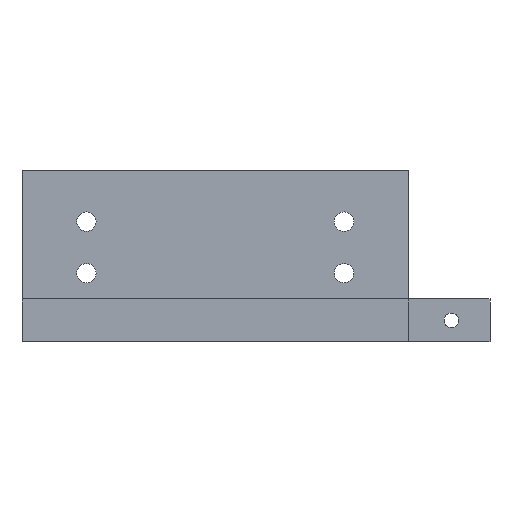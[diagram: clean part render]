
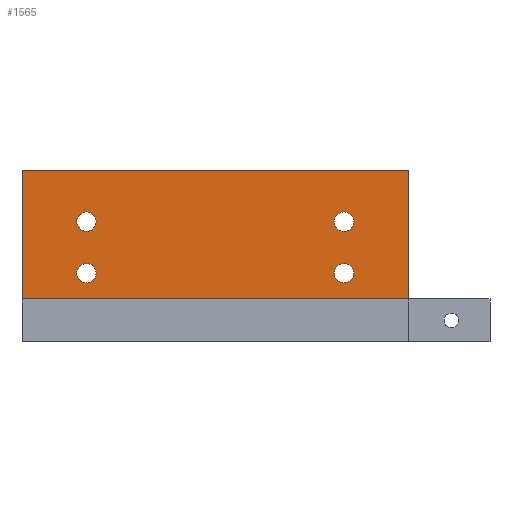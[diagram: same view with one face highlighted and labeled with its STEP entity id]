
A CAD part, front view. The second image highlights one B-rep face of the part: STEP entity #1565.
In plain terms, the highlighted planar face has unit normal (0, -1, 0).
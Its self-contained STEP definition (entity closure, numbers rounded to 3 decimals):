
#32 = PLANE('',#33);
#33 = AXIS2_PLACEMENT_3D('',#34,#35,#36);
#34 = CARTESIAN_POINT('',(0.,103.,10.));
#35 = DIRECTION('',(1.,0.,0.));
#36 = DIRECTION('',(0.,0.,-1.));
#141 = VERTEX_POINT('',#142);
#142 = CARTESIAN_POINT('',(0.,12.,40.));
#156 = PLANE('',#157);
#157 = AXIS2_PLACEMENT_3D('',#158,#159,#160);
#158 = CARTESIAN_POINT('',(0.,22.,40.));
#159 = DIRECTION('',(0.,0.,-1.));
#160 = DIRECTION('',(1.,0.,0.));
#168 = EDGE_CURVE('',#141,#169,#171,.T.);
#169 = VERTEX_POINT('',#170);
#170 = CARTESIAN_POINT('',(0.,12.,10.));
#171 = SURFACE_CURVE('',#172,(#176,#183),.PCURVE_S1.);
#172 = LINE('',#173,#174);
#173 = CARTESIAN_POINT('',(0.,12.,40.));
#174 = VECTOR('',#175,1.);
#175 = DIRECTION('',(0.,0.,-1.));
#176 = PCURVE('',#32,#177);
#177 = DEFINITIONAL_REPRESENTATION('',(#178),#182);
#178 = LINE('',#179,#180);
#179 = CARTESIAN_POINT('',(-30.,-91.));
#180 = VECTOR('',#181,1.);
#181 = DIRECTION('',(1.,0.));
#182 = ( GEOMETRIC_REPRESENTATION_CONTEXT(2) 
PARAMETRIC_REPRESENTATION_CONTEXT() REPRESENTATION_CONTEXT('2D SPACE',''
  ) );
#183 = PCURVE('',#184,#189);
#184 = PLANE('',#185);
#185 = AXIS2_PLACEMENT_3D('',#186,#187,#188);
#186 = CARTESIAN_POINT('',(0.,12.,40.));
#187 = DIRECTION('',(0.,-1.,0.));
#188 = DIRECTION('',(0.,0.,-1.));
#189 = DEFINITIONAL_REPRESENTATION('',(#190),#194);
#190 = LINE('',#191,#192);
#191 = CARTESIAN_POINT('',(0.,0.));
#192 = VECTOR('',#193,1.);
#193 = DIRECTION('',(1.,0.));
#194 = ( GEOMETRIC_REPRESENTATION_CONTEXT(2) 
PARAMETRIC_REPRESENTATION_CONTEXT() REPRESENTATION_CONTEXT('2D SPACE',''
  ) );
#212 = PLANE('',#213);
#213 = AXIS2_PLACEMENT_3D('',#214,#215,#216);
#214 = CARTESIAN_POINT('',(0.,103.,10.));
#215 = DIRECTION('',(0.,0.,-1.));
#216 = DIRECTION('',(1.,0.,0.));
#482 = PLANE('',#483);
#483 = AXIS2_PLACEMENT_3D('',#484,#485,#486);
#484 = CARTESIAN_POINT('',(90.,103.,10.));
#485 = DIRECTION('',(1.,0.,0.));
#486 = DIRECTION('',(0.,0.,-1.));
#1412 = CYLINDRICAL_SURFACE('',#1413,2.25);
#1413 = AXIS2_PLACEMENT_3D('',#1414,#1415,#1416);
#1414 = CARTESIAN_POINT('',(15.,23.,28.));
#1415 = DIRECTION('',(0.,-1.,0.));
#1416 = DIRECTION('',(0.,0.,-1.));
#1443 = CYLINDRICAL_SURFACE('',#1444,2.25);
#1444 = AXIS2_PLACEMENT_3D('',#1445,#1446,#1447);
#1445 = CARTESIAN_POINT('',(15.,23.,16.));
#1446 = DIRECTION('',(0.,-1.,0.));
#1447 = DIRECTION('',(0.,0.,-1.));
#1474 = CYLINDRICAL_SURFACE('',#1475,2.25);
#1475 = AXIS2_PLACEMENT_3D('',#1476,#1477,#1478);
#1476 = CARTESIAN_POINT('',(75.,23.,28.));
#1477 = DIRECTION('',(0.,-1.,0.));
#1478 = DIRECTION('',(0.,0.,-1.));
#1505 = CYLINDRICAL_SURFACE('',#1506,2.25);
#1506 = AXIS2_PLACEMENT_3D('',#1507,#1508,#1509);
#1507 = CARTESIAN_POINT('',(75.,23.,16.));
#1508 = DIRECTION('',(0.,-1.,0.));
#1509 = DIRECTION('',(0.,0.,-1.));
#1523 = VERTEX_POINT('',#1524);
#1524 = CARTESIAN_POINT('',(90.,12.,40.));
#1545 = EDGE_CURVE('',#141,#1523,#1546,.T.);
#1546 = SURFACE_CURVE('',#1547,(#1551,#1558),.PCURVE_S1.);
#1547 = LINE('',#1548,#1549);
#1548 = CARTESIAN_POINT('',(0.,12.,40.));
#1549 = VECTOR('',#1550,1.);
#1550 = DIRECTION('',(1.,0.,0.));
#1551 = PCURVE('',#156,#1552);
#1552 = DEFINITIONAL_REPRESENTATION('',(#1553),#1557);
#1553 = LINE('',#1554,#1555);
#1554 = CARTESIAN_POINT('',(0.,10.));
#1555 = VECTOR('',#1556,1.);
#1556 = DIRECTION('',(1.,0.));
#1557 = ( GEOMETRIC_REPRESENTATION_CONTEXT(2) 
PARAMETRIC_REPRESENTATION_CONTEXT() REPRESENTATION_CONTEXT('2D SPACE',''
  ) );
#1558 = PCURVE('',#184,#1559);
#1559 = DEFINITIONAL_REPRESENTATION('',(#1560),#1564);
#1560 = LINE('',#1561,#1562);
#1561 = CARTESIAN_POINT('',(0.,0.));
#1562 = VECTOR('',#1563,1.);
#1563 = DIRECTION('',(0.,1.));
#1564 = ( GEOMETRIC_REPRESENTATION_CONTEXT(2) 
PARAMETRIC_REPRESENTATION_CONTEXT() REPRESENTATION_CONTEXT('2D SPACE',''
  ) );
#1565 = ADVANCED_FACE('',(#1566,#1614,#1640,#1666,#1692),#184,.T.);
#1566 = FACE_BOUND('',#1567,.T.);
#1567 = EDGE_LOOP('',(#1568,#1569,#1570,#1593));
#1568 = ORIENTED_EDGE('',*,*,#1545,.F.);
#1569 = ORIENTED_EDGE('',*,*,#168,.T.);
#1570 = ORIENTED_EDGE('',*,*,#1571,.T.);
#1571 = EDGE_CURVE('',#169,#1572,#1574,.T.);
#1572 = VERTEX_POINT('',#1573);
#1573 = CARTESIAN_POINT('',(90.,12.,10.));
#1574 = SURFACE_CURVE('',#1575,(#1579,#1586),.PCURVE_S1.);
#1575 = LINE('',#1576,#1577);
#1576 = CARTESIAN_POINT('',(0.,12.,10.));
#1577 = VECTOR('',#1578,1.);
#1578 = DIRECTION('',(1.,0.,0.));
#1579 = PCURVE('',#184,#1580);
#1580 = DEFINITIONAL_REPRESENTATION('',(#1581),#1585);
#1581 = LINE('',#1582,#1583);
#1582 = CARTESIAN_POINT('',(30.,0.));
#1583 = VECTOR('',#1584,1.);
#1584 = DIRECTION('',(0.,1.));
#1585 = ( GEOMETRIC_REPRESENTATION_CONTEXT(2) 
PARAMETRIC_REPRESENTATION_CONTEXT() REPRESENTATION_CONTEXT('2D SPACE',''
  ) );
#1586 = PCURVE('',#212,#1587);
#1587 = DEFINITIONAL_REPRESENTATION('',(#1588),#1592);
#1588 = LINE('',#1589,#1590);
#1589 = CARTESIAN_POINT('',(0.,91.));
#1590 = VECTOR('',#1591,1.);
#1591 = DIRECTION('',(1.,0.));
#1592 = ( GEOMETRIC_REPRESENTATION_CONTEXT(2) 
PARAMETRIC_REPRESENTATION_CONTEXT() REPRESENTATION_CONTEXT('2D SPACE',''
  ) );
#1593 = ORIENTED_EDGE('',*,*,#1594,.F.);
#1594 = EDGE_CURVE('',#1523,#1572,#1595,.T.);
#1595 = SURFACE_CURVE('',#1596,(#1600,#1607),.PCURVE_S1.);
#1596 = LINE('',#1597,#1598);
#1597 = CARTESIAN_POINT('',(90.,12.,40.));
#1598 = VECTOR('',#1599,1.);
#1599 = DIRECTION('',(0.,0.,-1.));
#1600 = PCURVE('',#184,#1601);
#1601 = DEFINITIONAL_REPRESENTATION('',(#1602),#1606);
#1602 = LINE('',#1603,#1604);
#1603 = CARTESIAN_POINT('',(0.,90.));
#1604 = VECTOR('',#1605,1.);
#1605 = DIRECTION('',(1.,0.));
#1606 = ( GEOMETRIC_REPRESENTATION_CONTEXT(2) 
PARAMETRIC_REPRESENTATION_CONTEXT() REPRESENTATION_CONTEXT('2D SPACE',''
  ) );
#1607 = PCURVE('',#482,#1608);
#1608 = DEFINITIONAL_REPRESENTATION('',(#1609),#1613);
#1609 = LINE('',#1610,#1611);
#1610 = CARTESIAN_POINT('',(-30.,-91.));
#1611 = VECTOR('',#1612,1.);
#1612 = DIRECTION('',(1.,0.));
#1613 = ( GEOMETRIC_REPRESENTATION_CONTEXT(2) 
PARAMETRIC_REPRESENTATION_CONTEXT() REPRESENTATION_CONTEXT('2D SPACE',''
  ) );
#1614 = FACE_BOUND('',#1615,.T.);
#1615 = EDGE_LOOP('',(#1616));
#1616 = ORIENTED_EDGE('',*,*,#1617,.F.);
#1617 = EDGE_CURVE('',#1618,#1618,#1620,.T.);
#1618 = VERTEX_POINT('',#1619);
#1619 = CARTESIAN_POINT('',(15.,12.,25.75));
#1620 = SURFACE_CURVE('',#1621,(#1626,#1633),.PCURVE_S1.);
#1621 = CIRCLE('',#1622,2.25);
#1622 = AXIS2_PLACEMENT_3D('',#1623,#1624,#1625);
#1623 = CARTESIAN_POINT('',(15.,12.,28.));
#1624 = DIRECTION('',(0.,-1.,0.));
#1625 = DIRECTION('',(0.,0.,-1.));
#1626 = PCURVE('',#184,#1627);
#1627 = DEFINITIONAL_REPRESENTATION('',(#1628),#1632);
#1628 = CIRCLE('',#1629,2.25);
#1629 = AXIS2_PLACEMENT_2D('',#1630,#1631);
#1630 = CARTESIAN_POINT('',(12.,15.));
#1631 = DIRECTION('',(1.,0.));
#1632 = ( GEOMETRIC_REPRESENTATION_CONTEXT(2) 
PARAMETRIC_REPRESENTATION_CONTEXT() REPRESENTATION_CONTEXT('2D SPACE',''
  ) );
#1633 = PCURVE('',#1412,#1634);
#1634 = DEFINITIONAL_REPRESENTATION('',(#1635),#1639);
#1635 = LINE('',#1636,#1637);
#1636 = CARTESIAN_POINT('',(0.,11.));
#1637 = VECTOR('',#1638,1.);
#1638 = DIRECTION('',(1.,0.));
#1639 = ( GEOMETRIC_REPRESENTATION_CONTEXT(2) 
PARAMETRIC_REPRESENTATION_CONTEXT() REPRESENTATION_CONTEXT('2D SPACE',''
  ) );
#1640 = FACE_BOUND('',#1641,.T.);
#1641 = EDGE_LOOP('',(#1642));
#1642 = ORIENTED_EDGE('',*,*,#1643,.F.);
#1643 = EDGE_CURVE('',#1644,#1644,#1646,.T.);
#1644 = VERTEX_POINT('',#1645);
#1645 = CARTESIAN_POINT('',(15.,12.,13.75));
#1646 = SURFACE_CURVE('',#1647,(#1652,#1659),.PCURVE_S1.);
#1647 = CIRCLE('',#1648,2.25);
#1648 = AXIS2_PLACEMENT_3D('',#1649,#1650,#1651);
#1649 = CARTESIAN_POINT('',(15.,12.,16.));
#1650 = DIRECTION('',(0.,-1.,0.));
#1651 = DIRECTION('',(0.,0.,-1.));
#1652 = PCURVE('',#184,#1653);
#1653 = DEFINITIONAL_REPRESENTATION('',(#1654),#1658);
#1654 = CIRCLE('',#1655,2.25);
#1655 = AXIS2_PLACEMENT_2D('',#1656,#1657);
#1656 = CARTESIAN_POINT('',(24.,15.));
#1657 = DIRECTION('',(1.,0.));
#1658 = ( GEOMETRIC_REPRESENTATION_CONTEXT(2) 
PARAMETRIC_REPRESENTATION_CONTEXT() REPRESENTATION_CONTEXT('2D SPACE',''
  ) );
#1659 = PCURVE('',#1443,#1660);
#1660 = DEFINITIONAL_REPRESENTATION('',(#1661),#1665);
#1661 = LINE('',#1662,#1663);
#1662 = CARTESIAN_POINT('',(0.,11.));
#1663 = VECTOR('',#1664,1.);
#1664 = DIRECTION('',(1.,0.));
#1665 = ( GEOMETRIC_REPRESENTATION_CONTEXT(2) 
PARAMETRIC_REPRESENTATION_CONTEXT() REPRESENTATION_CONTEXT('2D SPACE',''
  ) );
#1666 = FACE_BOUND('',#1667,.T.);
#1667 = EDGE_LOOP('',(#1668));
#1668 = ORIENTED_EDGE('',*,*,#1669,.F.);
#1669 = EDGE_CURVE('',#1670,#1670,#1672,.T.);
#1670 = VERTEX_POINT('',#1671);
#1671 = CARTESIAN_POINT('',(75.,12.,25.75));
#1672 = SURFACE_CURVE('',#1673,(#1678,#1685),.PCURVE_S1.);
#1673 = CIRCLE('',#1674,2.25);
#1674 = AXIS2_PLACEMENT_3D('',#1675,#1676,#1677);
#1675 = CARTESIAN_POINT('',(75.,12.,28.));
#1676 = DIRECTION('',(0.,-1.,0.));
#1677 = DIRECTION('',(0.,0.,-1.));
#1678 = PCURVE('',#184,#1679);
#1679 = DEFINITIONAL_REPRESENTATION('',(#1680),#1684);
#1680 = CIRCLE('',#1681,2.25);
#1681 = AXIS2_PLACEMENT_2D('',#1682,#1683);
#1682 = CARTESIAN_POINT('',(12.,75.));
#1683 = DIRECTION('',(1.,0.));
#1684 = ( GEOMETRIC_REPRESENTATION_CONTEXT(2) 
PARAMETRIC_REPRESENTATION_CONTEXT() REPRESENTATION_CONTEXT('2D SPACE',''
  ) );
#1685 = PCURVE('',#1474,#1686);
#1686 = DEFINITIONAL_REPRESENTATION('',(#1687),#1691);
#1687 = LINE('',#1688,#1689);
#1688 = CARTESIAN_POINT('',(0.,11.));
#1689 = VECTOR('',#1690,1.);
#1690 = DIRECTION('',(1.,0.));
#1691 = ( GEOMETRIC_REPRESENTATION_CONTEXT(2) 
PARAMETRIC_REPRESENTATION_CONTEXT() REPRESENTATION_CONTEXT('2D SPACE',''
  ) );
#1692 = FACE_BOUND('',#1693,.T.);
#1693 = EDGE_LOOP('',(#1694));
#1694 = ORIENTED_EDGE('',*,*,#1695,.F.);
#1695 = EDGE_CURVE('',#1696,#1696,#1698,.T.);
#1696 = VERTEX_POINT('',#1697);
#1697 = CARTESIAN_POINT('',(75.,12.,13.75));
#1698 = SURFACE_CURVE('',#1699,(#1704,#1711),.PCURVE_S1.);
#1699 = CIRCLE('',#1700,2.25);
#1700 = AXIS2_PLACEMENT_3D('',#1701,#1702,#1703);
#1701 = CARTESIAN_POINT('',(75.,12.,16.));
#1702 = DIRECTION('',(0.,-1.,0.));
#1703 = DIRECTION('',(0.,0.,-1.));
#1704 = PCURVE('',#184,#1705);
#1705 = DEFINITIONAL_REPRESENTATION('',(#1706),#1710);
#1706 = CIRCLE('',#1707,2.25);
#1707 = AXIS2_PLACEMENT_2D('',#1708,#1709);
#1708 = CARTESIAN_POINT('',(24.,75.));
#1709 = DIRECTION('',(1.,0.));
#1710 = ( GEOMETRIC_REPRESENTATION_CONTEXT(2) 
PARAMETRIC_REPRESENTATION_CONTEXT() REPRESENTATION_CONTEXT('2D SPACE',''
  ) );
#1711 = PCURVE('',#1505,#1712);
#1712 = DEFINITIONAL_REPRESENTATION('',(#1713),#1717);
#1713 = LINE('',#1714,#1715);
#1714 = CARTESIAN_POINT('',(0.,11.));
#1715 = VECTOR('',#1716,1.);
#1716 = DIRECTION('',(1.,0.));
#1717 = ( GEOMETRIC_REPRESENTATION_CONTEXT(2) 
PARAMETRIC_REPRESENTATION_CONTEXT() REPRESENTATION_CONTEXT('2D SPACE',''
  ) );
